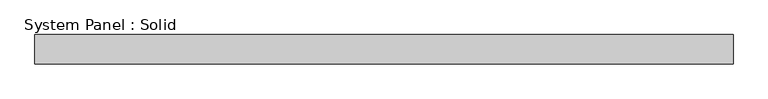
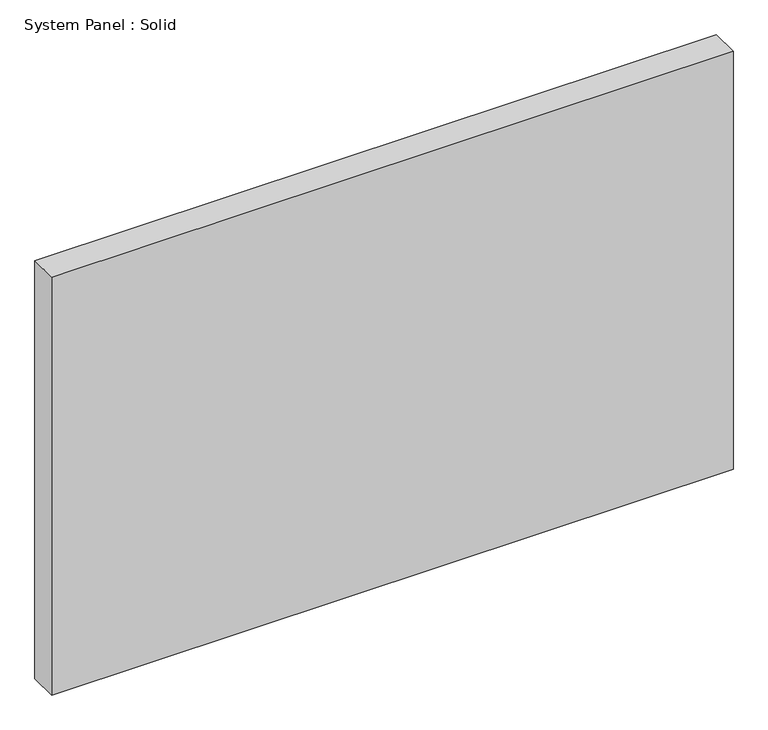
"""IFC4 building model written with IfcOpenShell, lengths in millimetres: plate geometry, System Panel : Solid."""

from ifc_helpers import new_model, si_unit, origin, origin_with_axes, place, context, project, spatial, polyline, outline, extrude, source, transform, mapped, element, save


def system_panel_solid_47bad419(model_context):
    return source(origin(), model_context, "Body", "SweptSolid", [
        extrude(outline(polyline([(749.3, -19.05), (-749.3, -19.05), (-749.3, 44.45), (749.3, 44.45), (749.3, -19.05)])), origin_with_axes(), (0.0, 0.0, 1.0), 971.55),
    ])


if __name__ == "__main__":
    model = new_model("IFC4")
    model_context = context("Model", 3, world=origin())
    ifc_project = project(units=[si_unit("LENGTHUNIT", "METRE", prefix="MILLI")], contexts=[model_context])
    site = spatial("IfcSite", under=ifc_project)
    building = spatial("IfcBuilding", under=site)
    placement = place(None, origin())
    system_panel_solid_shape = system_panel_solid_47bad419(model_context)
    element("IfcPlate", 1, ObjectType="System Panel : Solid", at=placement, inside=building, context=model_context, shape_type="MappedRepresentation", body=[
        mapped(system_panel_solid_shape, transform((0.0, 0.0, 0.0), x_axis=(1.0, 0.0, 0.0), y_axis=(0.0, 1.0, 0.0), z_axis=(0.0, 0.0, 1.0))),
    ])
    save(model, "model.ifc")
